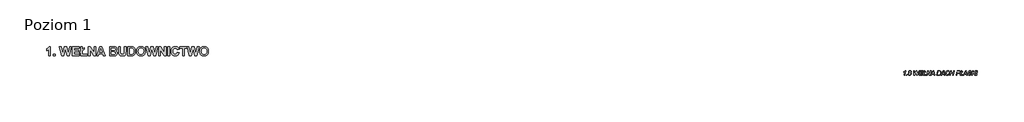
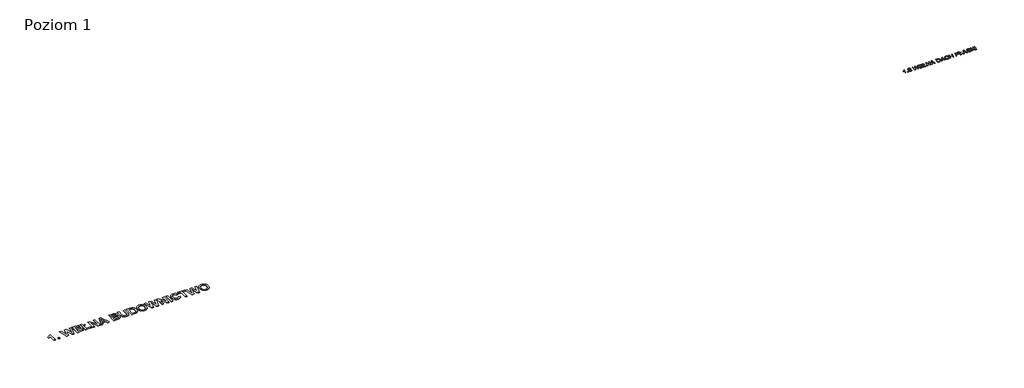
# One storey, incomplete: 2 proxies.
"""IFC4 building model written with IfcOpenShell, lengths in millimetres."""

import ifcopenshell
import ifcopenshell.guid

model = None  # the IFC model being written
_history = None  # IfcOwnerHistory: only IFC2X3 demands one
_inside = {}  # id of a spatial element -> (the spatial element, [elements in it])
_under = {}  # id of a project, library or spatial element -> (it, [spatial elements below it])
_declared = {}  # id of a project -> (the project, [libraries it declares])
_typed = {}  # id of a type object -> (the type object, [elements of that type])
_made_of = {}  # id of a material, layer set ... -> (it, [elements and type objects made of it])


def new_model(schema):
    """Start an empty IFC model of exactly this schema.

    Asked for "IFC4X3", IfcOpenShell would pick the latest addendum, in which some entities
    have other attributes; the version numbers below select the first issue.
    IFC2X3 requires an IfcOwnerHistory on every rooted entity: one is made here for all.
    """
    global model, _history
    if schema == "IFC4X3":
        model = ifcopenshell.file(schema_version=(4, 3, 0, 0))
    else:
        model = ifcopenshell.file(schema=schema)
    _inside.clear()
    _under.clear()
    _declared.clear()
    _typed.clear()
    _made_of.clear()
    _history = None
    if model.schema == "IFC2X3":
        org = make("IfcOrganization", Name="unknown")
        user = make(
            "IfcPersonAndOrganization",
            ThePerson=make("IfcPerson", FamilyName="unknown"),
            TheOrganization=org,
        )
        app = make(
            "IfcApplication",
            ApplicationDeveloper=org,
            Version="unknown",
            ApplicationFullName="unknown",
            ApplicationIdentifier="unknown",
        )
        _history = make(
            "IfcOwnerHistory",
            OwningUser=user,
            OwningApplication=app,
            ChangeAction="ADDED",
            CreationDate=0,
        )
    return model


def make(cls, **values):
    """One entity of the class cls with the attributes given. An attribute that is None is left unset."""
    return model.create_entity(
        cls, **{name: value for name, value in values.items() if value is not None}
    )


def rooted(cls, **values):
    """An entity with a GlobalId (a new one), such as an element, a storey or a relation."""
    return make(cls, GlobalId=ifcopenshell.guid.new(), OwnerHistory=_history, **values)


def si_unit(unit_type, name, prefix=None):
    """IfcSIUnit, for example si_unit("LENGTHUNIT", "METRE", prefix="MILLI")."""
    return make("IfcSIUnit", UnitType=unit_type, Prefix=prefix, Name=name)


def assignment(units):
    """IfcUnitAssignment: the units of a project."""
    return None if units is None else make("IfcUnitAssignment", Units=units)


def point(xyz):
    """IfcCartesianPoint."""
    return None if xyz is None else make("IfcCartesianPoint", Coordinates=xyz)


def direction(xyz):
    """IfcDirection."""
    return None if xyz is None else make("IfcDirection", DirectionRatios=xyz)


def frame(location, z_axis=None, x_axis=None):
    """IfcAxis2Placement3D, a coordinate frame: its origin and axes. An axis left out is left unset."""
    return make(
        "IfcAxis2Placement3D",
        Location=point(location),
        Axis=direction(z_axis),
        RefDirection=direction(x_axis),
    )


def origin():
    """The frame at (0, 0, 0) with its axes left unset."""
    return frame((0.0, 0.0, 0.0))


def origin_with_axes():
    """The frame at (0, 0, 0) with the z axis (0, 0, 1) and the x axis (1, 0, 0) written out."""
    return frame((0.0, 0.0, 0.0), z_axis=(0.0, 0.0, 1.0), x_axis=(1.0, 0.0, 0.0))


def place(relative_to, where):
    """IfcLocalPlacement: puts the frame where relative to a parent placement (None: the world)."""
    return make(
        "IfcLocalPlacement", PlacementRelTo=relative_to, RelativePlacement=where
    )


def context(
    kind, dimensions, precision=None, world=None, true_north=None, identifier=None
):
    """IfcGeometricRepresentationContext, for example the 3D "Model" context."""
    return make(
        "IfcGeometricRepresentationContext",
        ContextIdentifier=identifier,
        ContextType=kind,
        CoordinateSpaceDimension=dimensions,
        Precision=precision,
        WorldCoordinateSystem=world,
        TrueNorth=true_north,
    )


def project(units=None, contexts=None):
    """IfcProject with its units and contexts."""
    return rooted(
        "IfcProject",
        Name="project",
        RepresentationContexts=contexts,
        UnitsInContext=assignment(units),
    )


def spatial(cls, under=None, at=None, **own):
    """A site, building, storey or space (cls), placed at a placement, below another one or the project."""
    s = rooted(cls, ObjectPlacement=at, **own)
    if under is not None:
        _under.setdefault(under.id(), (under, []))[1].append(s)
    return s


def polyline(points):
    """IfcPolyline through the points."""
    return make("IfcPolyline", Points=[point(p) for p in points])


def outline(outer, holes=None, kind="AREA"):
    """IfcArbitraryClosedProfileDef: a profile drawn as a closed curve; with holes, ...WithVoids."""
    if holes is None:
        return make("IfcArbitraryClosedProfileDef", ProfileType=kind, OuterCurve=outer)
    return make(
        "IfcArbitraryProfileDefWithVoids",
        ProfileType=kind,
        OuterCurve=outer,
        InnerCurves=holes,
    )


def extrude(swept, where, along, depth):
    """IfcExtrudedAreaSolid: the profile swept, set in the frame where, extruded along a direction by depth."""
    return make(
        "IfcExtrudedAreaSolid",
        SweptArea=swept,
        Position=where,
        ExtrudedDirection=direction(along),
        Depth=depth,
    )


def shape(context_of_items, identifier, shape_type, items):
    """IfcShapeRepresentation: the items that make up one representation, for example the "Body"."""
    return make(
        "IfcShapeRepresentation",
        ContextOfItems=context_of_items,
        RepresentationIdentifier=identifier,
        RepresentationType=shape_type,
        Items=items,
    )


def made_of(thing, what):
    """Note that an element or type object is made of a material, layer set ...; save() writes the relation."""
    if what is not None:
        _made_of.setdefault(what.id(), (what, []))[1].append(thing)
    return thing


def element(
    cls,
    number,
    at=None,
    inside=None,
    cuts=None,
    type_object=None,
    material=None,
    context=None,
    identifier="Body",
    shape_type=None,
    held_by="IfcProductDefinitionShape",
    body=None,
    shapes=None,
    **own,
):
    """One element of the class cls, such as IfcWall. Its Tag is "e" and its number.

    at: its placement. inside: the storey or other place that contains it. cuts: it is an
    opening in that element (IfcRelVoidsElement). A single representation is given by context,
    identifier, shape_type and body (its items); several are given by shapes. held_by: the class
    of the entity that holds the representations. save() writes the other relations.
    """
    e = rooted(cls, Tag="e%d" % number, ObjectPlacement=at, **own)
    if body is not None:
        shapes = [shape(context, identifier, shape_type, body)]
    if shapes is not None:
        e.Representation = make(held_by, Representations=shapes)
    if inside is not None:
        _inside.setdefault(inside.id(), (inside, []))[1].append(e)
    if cuts is not None:
        rooted(
            "IfcRelVoidsElement", RelatingBuildingElement=cuts, RelatedOpeningElement=e
        )
    if type_object is not None:
        _typed.setdefault(type_object.id(), (type_object, []))[1].append(e)
    return made_of(e, material)


def aggregate(whole, parts):
    """IfcRelAggregates: a whole, such as a stair, and the parts it consists of."""
    return rooted("IfcRelAggregates", RelatingObject=whole, RelatedObjects=parts)


def save(model, path):
    """Write the relations noted so far, then the file.

    IfcRelAggregates (storeys below a building ...), IfcRelContainedInSpatialStructure (elements
    in a storey), IfcRelDefinesByType, IfcRelAssociatesMaterial and IfcRelDeclares: one each for
    every whole, place, type object, material and project.
    """
    for whole, parts in _under.values():
        aggregate(whole, parts)
    for where, things in _inside.values():
        rooted(
            "IfcRelContainedInSpatialStructure",
            RelatedElements=things,
            RelatingStructure=where,
        )
    for kind, things in _typed.values():
        rooted("IfcRelDefinesByType", RelatedObjects=things, RelatingType=kind)
    for what, things in _made_of.values():
        rooted("IfcRelAssociatesMaterial", RelatedObjects=things, RelatingMaterial=what)
    for by, libraries in _declared.values():
        rooted("IfcRelDeclares", RelatingContext=by, RelatedDefinitions=libraries)
    model.write(path)


model = new_model("IFC4")

# Units and contexts
model_context = context("Model", 3, world=origin())
ifc_project = project(units=[si_unit("LENGTHUNIT", "METRE", prefix="MILLI")], contexts=[model_context])

# Site, building, storey
site = spatial("IfcSite", under=ifc_project)
building = spatial("IfcBuilding", under=site)
storey = spatial("IfcBuildingStorey", under=building, Name="Poziom 1", Elevation=0.0)

# Proxies
placement = place(None, origin())
element("IfcBuildingElementProxy", 1, Name="400 mm Arial", ObjectType="400 mm Arial", at=placement, inside=storey, context=model_context, shape_type="SweptSolid", body=[
    extrude(outline(polyline([(59488.1068831, 15251.1796723), (59549.3190043, 15546.3368692), (59527.350787, 15531.4283702), (59501.3296577, 15518.0740851), (59437.1286634, 15496.0281571), (59446.1191937, 15538.8766419), (59481.8302496, 15555.5067319), (59517.0391748, 15576.5125321), (59569.9780952, 15617.0177404), (59590.7328301, 15642.937248), (59619.330368, 15642.937248), (59537.9373755, 15251.1796723), (59488.1068831, 15251.1796723)])), origin_with_axes(), (0.0, 0.0, 1.0), 5.0),
    extrude(outline(polyline([(59684.7508225, 15251.1796723), (59696.2280952, 15300.1493692), (59745.1977922, 15300.1493692), (59734.6769589, 15251.1796723), (59684.7508225, 15251.1796723)])), origin_with_axes(), (0.0, 0.0, 1.0), 5.0),
    extrude(outline(polyline([(59929.5993073, 15471.6389526), (59910.5183414, 15484.8497717), (59896.8890801, 15501.3363957), (59888.7115233, 15520.1423853), (59885.985671, 15540.311301), (59887.611618, 15557.1087679), (59892.4894589, 15573.2606382), (59912.0008225, 15603.6275889), (59930.902456, 15620.8255648), (59952.8886066, 15633.1098332), (59977.9592742, 15640.4803943), (60006.1144589, 15642.937248), (60030.8832503, 15641.2515236), (60052.8723897, 15636.1943503), (60072.0818772, 15627.7657281), (60088.5117127, 15615.9656571), (60101.6717209, 15601.7266656), (60111.0717269, 15585.9812821), (60116.7117304, 15568.7295065), (60118.5917316, 15549.9713389), (60113.964956, 15523.4301457), (60100.0846293, 15499.6626268), (60077.691992, 15479.5534885), (60047.5282846, 15463.9874374), (60067.6374229, 15448.6844071), (60081.0993073, 15432.4249374), (60090.8549892, 15408.7052404), (60094.1068831, 15381.3510738), (60091.8114286, 15355.4883548), (60084.9250649, 15331.0782281), (60073.4477922, 15308.1206938), (60057.3796104, 15286.6157518), (60037.4916487, 15268.4344367), (60014.5550365, 15255.447783), (59988.5697737, 15247.6557909), (59959.5358604, 15245.0584601), (59936.3123163, 15246.9982388), (59915.3244494, 15252.8175747), (59896.5722595, 15262.5164679), (59880.0557467, 15276.0949185), (59866.5819068, 15292.5845314), (59856.9577354, 15311.0169118), (59851.1832325, 15331.3920598), (59849.2583983, 15353.7099753), (59854.5427259, 15394.4901599), (59870.3957089, 15429.0295776), (59882.0224252, 15443.4748013), (59895.7652638, 15455.3914383), (59911.6242245, 15464.7794888), (59929.5993073, 15471.6389526)]), holes=[polyline([(59934.955368, 15536.1029677), (59938.9843689, 15517.3567556), (59951.0713717, 15502.6275889), (59970.2121151, 15493.087106), (59995.4023377, 15489.906945), (60025.3030242, 15494.0794118), (60049.0107657, 15506.5968124), (60064.4692174, 15525.1876031), (60069.6220346, 15547.5802404), (60065.5930337, 15566.2308086), (60053.5060308, 15581.0556192), (60034.3652875, 15590.7395681), (60009.1750649, 15593.967551), (59988.7909503, 15591.9231618), (59970.1045157, 15585.7899942), (59954.5623755, 15576.1538673), (59943.6111445, 15563.6006003), (59937.1193121, 15549.7202736), (59934.955368, 15536.1029677)]), polyline([(59898.2280952, 15352.2753162), (59900.140974, 15337.6776599), (59905.8796104, 15323.7256003), (59915.5157373, 15311.4951315), (59929.1210877, 15302.062248), (59945.8109551, 15296.0366798), (59964.7006331, 15294.0281571), (59982.8729816, 15296.1323238), (59999.2280952, 15302.4448238), (60013.765974, 15312.9656571), (60026.486618, 15327.6948238), (60040.4745441, 15355.0250794), (60045.1371861, 15384.4116798), (60040.8212534, 15407.019516), (60027.8734551, 15425.108176), (60007.9197382, 15436.97998), (59982.5860498, 15440.937248), (59965.6122394, 15439.3979784), (59949.9834219, 15434.7801694), (59935.6995974, 15427.0838212), (59922.7607657, 15416.3089336), (59912.0277224, 15403.0712146), (59904.3612628, 15387.9863721), (59899.7613871, 15371.0544059), (59898.2280952, 15352.2753162)])]), origin_with_axes(), (0.0, 0.0, 1.0), 5.0),
    extrude(outline(polyline([(60345.0765801, 15251.1796723), (60320.5917316, 15642.937248), (60369.5614286, 15642.937248), (60380.7517695, 15447.8236116), (60385.0557467, 15372.9344071), (60386.3947619, 15348.9277783), (60390.985671, 15318.5130056), (60436.4165422, 15418.0783465), (60551.1892695, 15642.937248), (60608.2887013, 15642.937248), (60625.6002543, 15413.2961495), (60635.8341558, 15318.5130056), (60651.328474, 15356.1010738), (60681.9345346, 15417.1219071), (60795.5595346, 15642.937248), (60850.0765801, 15642.937248), (60646.1637013, 15251.1796723), (60589.9250649, 15251.1796723), (60571.3701407, 15487.5158465), (60562.3796104, 15563.3614904), (60536.4601028, 15506.3577026), (60406.0017695, 15251.1796723), (60345.0765801, 15251.1796723)])), origin_with_axes(), (0.0, 0.0, 1.0), 5.0),
    extrude(outline(polyline([(60804.1674892, 15251.1796723), (60883.7432467, 15642.937248), (61159.1977922, 15642.937248), (61152.9809361, 15600.0887632), (60924.7744967, 15600.0887632), (60899.9070725, 15477.6645207), (61122.4705195, 15477.6645207), (61110.2280952, 15434.8160359), (60891.203474, 15434.8160359), (60862.6059361, 15294.0281571), (61108.1239286, 15294.0281571), (61098.9421104, 15251.1796723), (60804.1674892, 15251.1796723)])), origin_with_axes(), (0.0, 0.0, 1.0), 5.0),
    extrude(outline(polyline([(61198.3161634, 15413.7743692), (61146.955368, 15385.8463389), (61159.1977922, 15428.6948238), (61206.6371861, 15454.5186874), (61244.8947619, 15642.937248), (61294.6296104, 15642.937248), (61262.4932467, 15484.7421723), (61373.4402164, 15544.9978541), (61361.1977922, 15502.1493692), (61254.267868, 15444.093498), (61223.7574513, 15294.0281571), (61428.5311255, 15294.0281571), (61416.2887013, 15251.1796723), (61165.3190043, 15251.1796723), (61198.3161634, 15413.7743692)])), origin_with_axes(), (0.0, 0.0, 1.0), 5.0),
    extrude(outline(polyline([(61465.2583983, 15251.1796723), (61544.8341558, 15642.937248), (61612.1674892, 15642.937248), (61671.4667316, 15491.3416041), (61714.5065043, 15374.5603541), (61735.6438149, 15300.1493692), (61757.2593452, 15411.2876268), (61802.3076407, 15642.937248), (61851.9468452, 15642.937248), (61775.8142695, 15251.1796723), (61703.5074513, 15251.1796723), (61622.4970346, 15476.2298616), (61582.9960877, 15585.7421723), (61563.3890801, 15489.0461495), (61514.9932467, 15251.1796723), (61465.2583983, 15251.1796723)])), origin_with_axes(), (0.0, 0.0, 1.0), 5.0),
    extrude(outline(polyline([(61824.2101028, 15251.1796723), (62043.4260119, 15642.937248), (62105.4032846, 15642.937248), (62167.0936255, 15251.1796723), (62117.6457089, 15251.1796723), (62101.9601028, 15361.3614904), (61938.8871861, 15361.3614904), (61879.109724, 15251.1796723), (61824.2101028, 15251.1796723)]), holes=[polyline([(61964.2328301, 15404.2099753), (62095.9345346, 15404.2099753), (62082.1618073, 15502.1493692), (62068.1977922, 15600.0887632), (62025.0623755, 15520.5130056), (61964.2328301, 15404.2099753)])]), origin_with_axes(), (0.0, 0.0, 1.0), 5.0),
    extrude(outline(polyline([(62371.1977922, 15251.1796723), (62450.7735498, 15642.937248), (62568.0330195, 15642.937248), (62605.3102448, 15641.406945), (62632.5926786, 15636.8160359), (62662.1107894, 15625.2670302), (62686.9662581, 15607.2620586), (62706.7167316, 15583.3869402), (62720.9198566, 15554.2274942), (62729.4919447, 15520.4771391), (62732.3493073, 15482.8292935), (62728.8104816, 15437.6733986), (62718.1940043, 15396.701926), (62701.8747572, 15360.1539857), (62681.2276217, 15328.2686874), (62657.878545, 15301.9307376), (62633.453474, 15282.0248427), (62606.1949513, 15267.4989194), (62574.3455195, 15257.3008844), (62545.4610498, 15252.7099753), (62510.6466558, 15251.1796723), (62371.1977922, 15251.1796723)]), holes=[polyline([(62429.6362392, 15294.0281571), (62492.4743073, 15294.0281571), (62532.5969399, 15295.5584601), (62568.0330195, 15300.1493692), (62587.1139854, 15306.1988484), (62603.2299892, 15314.5916041), (62621.5697145, 15328.7469071), (62638.140027, 15346.9192556), (62656.6471293, 15375.385283), (62671.0415422, 15407.6053351), (62680.2950933, 15444.0337205), (62683.3796104, 15485.124748), (62679.1354106, 15527.9134554), (62666.4028111, 15559.4879109), (62647.0946909, 15581.0675747), (62623.1239286, 15593.8719071), (62598.3043263, 15598.5345491), (62562.6769589, 15600.0887632), (62491.8047998, 15600.0887632), (62429.6362392, 15294.0281571)])]), origin_with_axes(), (0.0, 0.0, 1.0), 5.0),
    extrude(outline(polyline([(62730.1494967, 15251.1796723), (62949.3654058, 15642.937248), (63011.3426786, 15642.937248), (63073.0330195, 15251.1796723), (63023.5851028, 15251.1796723), (63007.8994967, 15361.3614904), (62844.8265801, 15361.3614904), (62785.049118, 15251.1796723), (62730.1494967, 15251.1796723)]), holes=[polyline([(62870.172224, 15404.2099753), (63001.8739286, 15404.2099753), (62988.1012013, 15502.1493692), (62974.1371861, 15600.0887632), (62931.0017695, 15520.5130056), (62870.172224, 15404.2099753)])]), origin_with_axes(), (0.0, 0.0, 1.0), 5.0),
    extrude(outline(polyline([(63430.1674892, 15391.967551), (63479.1371861, 15385.8463389), (63465.501947, 15353.198878), (63449.0810782, 15324.7896391), (63429.8745796, 15300.6186223), (63407.8824513, 15280.6858276), (63383.7801786, 15265.0988543), (63358.2432467, 15253.965302), (63331.2716558, 15247.2851706), (63302.8654058, 15245.0584601), (63269.1748282, 15247.7723569), (63239.1665422, 15255.9140473), (63212.8405479, 15269.4835312), (63190.1968452, 15288.4808086), (63171.994608, 15312.5412371), (63158.99301, 15341.3001741), (63151.1920512, 15374.7576197), (63148.5917316, 15412.9135738), (63152.5549773, 15463.4195515), (63164.4447145, 15509.3465757), (63184.2609432, 15550.6946462), (63212.0036634, 15587.4637632), (63241.9342387, 15614.4114431), (63275.2960403, 15633.6597859), (63312.0890682, 15645.2087916), (63352.3133225, 15649.0584601), (63381.8762664, 15646.9841822), (63408.4921814, 15640.7613484), (63432.1610675, 15630.3899587), (63452.8829248, 15615.8700132), (63470.1078005, 15597.8471083), (63483.285742, 15576.9668408), (63492.4167493, 15553.2292106), (63497.5008225, 15526.6342177), (63448.5311255, 15520.5130056), (63436.9103869, 15558.1847622), (63427.9079011, 15572.9228955), (63416.7773377, 15584.9291988), (63403.6980289, 15594.2395385), (63388.8493073, 15600.8897812), (63353.8436255, 15606.2099753), (63319.3699631, 15602.2228186), (63288.351438, 15590.2613484), (63260.7880502, 15570.3255648), (63236.6797998, 15542.4154677), (63219.5655124, 15513.6326197), (63207.3410214, 15482.2793408), (63200.0063268, 15448.3556311), (63197.5614286, 15411.8614904), (63199.4503964, 15383.4701848), (63205.1172998, 15358.6475937), (63214.5621388, 15337.393717), (63227.7849134, 15319.7085548), (63244.0384054, 15305.7953505), (63262.5753964, 15295.8573474), (63283.3958864, 15289.8945456), (63306.4998755, 15287.906945), (63326.7136243, 15289.6046249), (63345.941045, 15294.6976647), (63364.1821376, 15303.1860643), (63381.436902, 15315.0698238), (63397.053764, 15330.0620113), (63410.3811492, 15347.875695), (63421.4190576, 15368.5108749), (63430.1674892, 15391.967551)])), origin_with_axes(), (0.0, 0.0, 1.0), 5.0),
    extrude(outline(polyline([(63515.8644589, 15251.1796723), (63595.4402164, 15642.937248), (63645.1750649, 15642.937248), (63611.6040422, 15477.6645207), (63813.0301786, 15477.6645207), (63846.7924892, 15642.937248), (63896.5273377, 15642.937248), (63816.5690043, 15251.1796723), (63766.8341558, 15251.1796723), (63804.3265801, 15434.8160359), (63602.9004437, 15434.8160359), (63565.5993073, 15251.1796723), (63515.8644589, 15251.1796723)])), origin_with_axes(), (0.0, 0.0, 1.0), 5.0),
    extrude(outline(polyline([(64060.6523377, 15251.1796723), (64139.8455195, 15642.937248), (64303.109724, 15642.937248), (64340.1956615, 15640.4983276), (64366.7129437, 15633.1815662), (64386.1047524, 15619.9587916), (64401.8142695, 15599.8018313), (64412.2155479, 15574.7431192), (64415.6826407, 15546.8150889), (64413.2078538, 15522.3182849), (64405.783493, 15497.4149942), (64394.5811966, 15474.5082707), (64380.7726028, 15456.0011685), (64365.5652164, 15441.7023995), (64350.1665422, 15431.420676), (64316.9780952, 15419.1304298), (64279.0791842, 15412.530998), (64240.7498755, 15410.3311874), (64142.6191937, 15410.3311874), (64110.4828301, 15251.1796723), (64060.6523377, 15251.1796723)]), holes=[polyline([(64151.3227922, 15453.1796723), (64239.3152164, 15453.1796723), (64283.6820488, 15455.9055245), (64314.4435308, 15464.0830813), (64335.9514617, 15477.8438531), (64352.5576407, 15497.3193503), (64363.174118, 15520.3336732), (64366.7129437, 15544.7109223), (64364.8000649, 15562.2615851), (64359.0614286, 15576.2734223), (64349.8317884, 15586.901855), (64337.4458983, 15594.3023048), (64317.0737392, 15598.6421486), (64283.8852922, 15600.0887632), (64181.0680573, 15600.0887632), (64151.3227922, 15453.1796723)])]), origin_with_axes(), (0.0, 0.0, 1.0), 5.0),
    extrude(outline(polyline([(64454.8010119, 15413.7743692), (64403.4402164, 15385.8463389), (64415.6826407, 15428.6948238), (64463.1220346, 15454.5186874), (64501.3796104, 15642.937248), (64551.1144589, 15642.937248), (64518.9780952, 15484.7421723), (64629.9250649, 15544.9978541), (64617.6826407, 15502.1493692), (64510.7527164, 15444.093498), (64480.2422998, 15294.0281571), (64685.015974, 15294.0281571), (64672.7735498, 15251.1796723), (64421.8038528, 15251.1796723), (64454.8010119, 15413.7743692)])), origin_with_axes(), (0.0, 0.0, 1.0), 5.0),
    extrude(outline(polyline([(64688.9373755, 15251.1796723), (64908.1532846, 15642.937248), (64970.1305573, 15642.937248), (65031.8208983, 15251.1796723), (64982.3729816, 15251.1796723), (64966.6873755, 15361.3614904), (64803.6144589, 15361.3614904), (64743.8369967, 15251.1796723), (64688.9373755, 15251.1796723)]), holes=[polyline([(64828.9601028, 15404.2099753), (64960.6618073, 15404.2099753), (64946.8890801, 15502.1493692), (64932.9250649, 15600.0887632), (64889.7896483, 15520.5130056), (64828.9601028, 15404.2099753)])]), origin_with_axes(), (0.0, 0.0, 1.0), 5.0),
    extrude(outline(polyline([(65101.2583983, 15379.7251268), (65150.2280952, 15385.8463389), (65149.6542316, 15371.6910359), (65152.236618, 15349.2386211), (65159.983777, 15328.7469071), (65173.6847714, 15311.4473096), (65194.1286634, 15298.5712442), (65220.1677259, 15290.5730198), (65250.6542316, 15287.906945), (65291.6974371, 15293.0717177), (65308.0674951, 15299.5276836), (65321.6698566, 15308.5660359), (65339.9976265, 15330.6836969), (65346.1068831, 15355.718498), (65342.9028111, 15373.3887158), (65333.2905952, 15389.4808086), (65308.9970346, 15407.0792935), (65262.1315043, 15430.0338389), (65200.5368073, 15460.6398995), (65178.1083036, 15478.7166041), (65162.4705195, 15498.3236116), (65153.2887013, 15520.1543408), (65150.2280952, 15544.9022101), (65154.2092742, 15573.499748), (65166.1528111, 15599.2279677), (65185.7598187, 15620.6402546), (65212.7314096, 15636.2899942), (65245.3579484, 15645.8663437), (65281.9297998, 15649.0584601), (65324.3239759, 15644.9577262), (65359.4970346, 15632.6555245), (65386.7316464, 15613.5147812), (65405.3104816, 15588.8984223), (65415.9986918, 15562.1659412), (65419.5614286, 15536.6768313), (65419.5614286, 15528.4514526), (65370.5917316, 15524.3387632), (65367.8180573, 15551.405998), (65361.254492, 15567.1752925), (65351.8933414, 15580.2426457), (65339.1248755, 15590.811301), (65322.3393642, 15599.0845018), (65302.4334693, 15604.4286069), (65280.3038528, 15606.2099753), (65243.9113339, 15601.3799563), (65229.1223897, 15595.3424327), (65216.6049892, 15586.8898995), (65203.5495914, 15569.7457234), (65199.1977922, 15547.7715283), (65201.0030716, 15534.094445), (65206.4189096, 15521.9476647), (65216.5452117, 15510.6616798), (65232.4818831, 15499.5669829), (65296.0851028, 15468.8652783), (65352.3237392, 15439.5982329), (65370.5199986, 15423.9604488), (65383.9818831, 15405.3577026), (65392.3029058, 15383.8856382), (65395.0765801, 15359.6398995), (65390.3661161, 15329.1892603), (65376.234724, 15301.1536306), (65353.7942647, 15277.3741562), (65324.156599, 15259.6919829), (65288.5172761, 15248.7168408), (65248.0718452, 15245.0584601), (65217.1878194, 15246.8876505), (65189.286689, 15252.3752215), (65164.3684539, 15261.5211732), (65142.4331142, 15274.3255056), (65124.5267754, 15291.888124), (65111.6955431, 15315.3089336), (65103.9394174, 15344.5879346), (65101.2583983, 15379.7251268)])), origin_with_axes(), (0.0, 0.0, 1.0), 5.0),
    extrude(outline(polyline([(65444.046277, 15251.1796723), (65523.2394589, 15642.937248), (65572.9743073, 15642.937248), (65534.5254437, 15452.5101647), (65751.6371861, 15642.937248), (65823.5614286, 15642.937248), (65640.6902164, 15481.0120586), (65770.2877543, 15251.1796723), (65714.9099134, 15251.1796723), (65603.1021483, 15449.6408465), (65519.0311255, 15375.8993692), (65493.8767695, 15251.1796723), (65444.046277, 15251.1796723)])), origin_with_axes(), (0.0, 0.0, 1.0), 5.0),
    extrude(outline(polyline([(65811.3190043, 15251.1796723), (65890.8947619, 15642.937248), (65940.6296104, 15642.937248), (65861.0538528, 15251.1796723), (65811.3190043, 15251.1796723)])), origin_with_axes(), (0.0, 0.0, 1.0), 5.0),
])
element("IfcBuildingElementProxy", 2, Name="800", ObjectType="800", at=placement, inside=storey, context=model_context, shape_type="SweptSolid", body=[
    extrude(outline(polyline([(-15688.5553841, 16963.7896585), (-15841.5553841, 16963.7896585), (-15841.5553841, 17537.938096), (-15883.9142708, 17497.5215921), (-15929.9088997, 17462.7330179), (-15979.5392708, 17433.5723734), (-16032.8053841, 17410.0396585), (-16032.8053841, 17563.0396585), (-16002.7856087, 17575.1235208), (-15971.4958138, 17591.6524515), (-15905.1061654, 17638.0455179), (-15873.3432259, 17666.8388529), (-15846.984095, 17697.9356546), (-15826.0287728, 17731.3359232), (-15810.4772591, 17767.0396585), (-15688.5553841, 17767.0396585), (-15688.5553841, 16963.7896585)])), origin_with_axes(), (0.0, 0.0, 1.0), 5.0),
    extrude(outline(polyline([(-15433.5553841, 16963.7896585), (-15433.5553841, 17116.7896585), (-15280.5553841, 17116.7896585), (-15280.5553841, 16963.7896585), (-15433.5553841, 16963.7896585)])), origin_with_axes(), (0.0, 0.0, 1.0), 5.0),
    extrude(outline(polyline([(-14695.8483529, 16963.7896585), (-14898.0553841, 17767.0396585), (-14741.0710091, 17767.0396585), (-14611.1803841, 17215.203721), (-14471.5280404, 17767.0396585), (-14265.7350716, 17767.0396585), (-14126.6803841, 17206.0396585), (-13996.7897591, 17767.0396585), (-13839.8053841, 17767.0396585), (-14039.0241341, 16963.7896585), (-14220.1139779, 16963.7896585), (-14368.9303841, 17564.234971), (-14520.7350716, 16963.7896585), (-14695.8483529, 16963.7896585)])), origin_with_axes(), (0.0, 0.0, 1.0), 5.0),
    extrude(outline(polyline([(-13763.3053841, 16963.7896585), (-13763.3053841, 17767.0396585), (-13164.0553841, 17767.0396585), (-13164.0553841, 17626.7896585), (-13610.3053841, 17626.7896585), (-13610.3053841, 17448.2896585), (-13189.5553841, 17448.2896585), (-13189.5553841, 17308.0396585), (-13610.3053841, 17308.0396585), (-13610.3053841, 17104.0396585), (-13151.3053841, 17104.0396585), (-13151.3053841, 16963.7896585), (-13763.3053841, 16963.7896585)])), origin_with_axes(), (0.0, 0.0, 1.0), 5.0),
    extrude(outline(polyline([(-13023.8053841, 17367.406846), (-13023.8053841, 17767.0396585), (-12870.8053841, 17767.0396585), (-12870.8053841, 17501.8795023), (-12692.3053841, 17658.6646585), (-12692.3053841, 17561.047471), (-12870.8053841, 17404.2623148), (-12870.8053841, 17104.0396585), (-12462.8053841, 17104.0396585), (-12462.8053841, 16963.7896585), (-13023.8053841, 16963.7896585), (-13023.8053841, 17269.7896585), (-13113.0553841, 17191.297471), (-13113.0553841, 17288.9146585), (-13023.8053841, 17367.406846)])), origin_with_axes(), (0.0, 0.0, 1.0), 5.0),
    extrude(outline(polyline([(-12348.0553841, 16963.7896585), (-12348.0553841, 17767.0396585), (-12187.6842904, 17767.0396585), (-11850.8053841, 17226.359971), (-11850.8053841, 17767.0396585), (-11697.8053841, 17767.0396585), (-11697.8053841, 16963.7896585), (-11863.1569466, 16963.7896585), (-12195.0553841, 17496.500596), (-12195.0553841, 16963.7896585), (-12348.0553841, 16963.7896585)])), origin_with_axes(), (0.0, 0.0, 1.0), 5.0),
    extrude(outline(polyline([(-10869.0553841, 16963.7896585), (-11029.8249154, 16963.7896585), (-11092.7780404, 17142.2896585), (-11396.1881966, 17142.2896585), (-11458.3444466, 16963.7896585), (-11621.3053841, 16963.7896585), (-11328.0553841, 17767.0396585), (-11165.0944466, 17767.0396585), (-10869.0553841, 16963.7896585)]), holes=[polyline([(-11141.7858529, 17282.5396585), (-11245.1803841, 17575.7896585), (-11347.1803841, 17282.5396585), (-11141.7858529, 17282.5396585)])]), origin_with_axes(), (0.0, 0.0, 1.0), 5.0),
    extrude(outline(polyline([(-10486.5553841, 17767.0396585), (-10156.8483529, 17767.0396585), (-10071.4582161, 17765.047471), (-10010.9206185, 17759.0709085), (-9965.3493294, 17746.7442484), (-9924.8581185, 17725.7017679), (-9890.0695443, 17696.1177835), (-9861.6061654, 17658.1666117), (-9850.5370736, 17636.4579935), (-9842.6305794, 17613.4669046), (-9837.8866829, 17589.1933451), (-9836.3053841, 17563.6373148), (-9838.1917366, 17535.9210062), (-9843.8507943, 17509.3502054), (-9853.282557, 17483.9249124), (-9866.4870247, 17459.6451273), (-9882.9287972, 17437.4197855), (-9902.072474, 17418.1578226), (-9923.918055, 17401.8592386), (-9948.4655404, 17388.5240335), (-9917.213099, 17375.9981546), (-9889.7956185, 17359.7369242), (-9866.213099, 17339.7403421), (-9846.4655404, 17316.0084085), (-9830.864222, 17289.2757425), (-9819.7204232, 17260.2769632), (-9813.0341439, 17229.0120707), (-9810.8053841, 17195.4810648), (-9812.4053597, 17168.3810892), (-9817.2052865, 17141.6670999), (-9836.4049935, 17089.3970804), (-9850.3752083, 17064.9429789), (-9866.6862435, 17043.078721), (-9885.338099, 17023.804307), (-9906.3307747, 17007.1197367), (-9929.782557, 16993.2055521), (-9955.8117318, 16982.2422953), (-9984.4182991, 16974.2299662), (-10015.6022591, 16969.1685648), (-10085.0299935, 16965.632432), (-10212.0319466, 16963.7896585), (-10486.5553841, 16963.7896585), (-10486.5553841, 17767.0396585)]), holes=[polyline([(-10333.5553841, 17626.7896585), (-10333.5553841, 17448.2896585), (-10216.8131966, 17448.2896585), (-10087.3210091, 17450.8795023), (-10046.5558724, 17460.1929789), (-10029.8152718, 17468.2488871), (-10015.5026497, 17478.5709085), (-10004.041346, 17490.9349222), (-9995.8547005, 17505.116807), (-9990.9427132, 17521.1165628), (-9989.3053841, 17538.9341898), (-9994.9582161, 17571.2823343), (-10002.0242562, 17584.9723978), (-10011.9167122, 17597.0064554), (-10024.5857796, 17607.1105814), (-10039.9816536, 17615.0108499), (-10078.9538216, 17624.1998148), (-10231.1569466, 17626.7896585), (-10333.5553841, 17626.7896585)]), polyline([(-10333.5553841, 17308.0396585), (-10333.5553841, 17104.0396585), (-10171.7897591, 17104.0396585), (-10094.4928841, 17105.234971), (-10051.8600716, 17108.8209085), (-10016.4489388, 17119.504014), (-9988.3092904, 17139.2017679), (-9977.5888314, 17152.3315287), (-9969.9313607, 17167.5157328), (-9965.3368782, 17184.7543802), (-9963.8053841, 17204.047471), (-9968.5368294, 17235.7232523), (-9982.7311654, 17262.219346), (-10005.8405404, 17282.8882914), (-10037.3171029, 17297.0826273), (-10093.8952279, 17305.3004007), (-10192.3092904, 17308.0396585), (-10333.5553841, 17308.0396585)])]), origin_with_axes(), (0.0, 0.0, 1.0), 5.0),
    extrude(outline(polyline([(-9683.3053841, 17767.0396585), (-9530.3053841, 17767.0396585), (-9530.3053841, 17333.7388773), (-9528.6618294, 17248.672471), (-9523.7311654, 17199.8638773), (-9516.098597, 17176.5615091), (-9504.5563607, 17155.6622171), (-9489.1044564, 17137.1660013), (-9469.7428841, 17121.0728617), (-9446.4716439, 17108.0427103), (-9419.2907357, 17098.7354593), (-9388.2001595, 17093.1511087), (-9353.1999154, 17091.2896585), (-9317.8697152, 17093.0452738), (-9287.1838021, 17098.3121195), (-9261.1421761, 17107.0901957), (-9239.7448372, 17119.3795023), (-9222.5684456, 17134.2275248), (-9209.1896615, 17150.6817484), (-9199.6084847, 17168.7421732), (-9193.8249154, 17188.4087992), (-9187.9977669, 17242.8702249), (-9186.0553841, 17324.375596), (-9186.0553841, 17767.0396585), (-9033.0553841, 17767.0396585), (-9033.0553841, 17345.6920023), (-9036.3922982, 17222.3257914), (-9046.4030404, 17141.4927835), (-9054.4838509, 17112.8613138), (-9065.3786263, 17086.5333109), (-9079.0873665, 17062.5087748), (-9095.6100716, 17040.7877054), (-9115.0525765, 17021.2704935), (-9137.5207161, 17003.8575296), (-9163.0144906, 16988.5488138), (-9191.5338997, 16975.344346), (-9223.8633675, 16964.7110453), (-9260.7873177, 16957.1158304), (-9302.3057503, 16952.5587015), (-9348.4186654, 16951.0396585), (-9403.2660775, 16952.6956644), (-9451.0661263, 16957.663682), (-9491.8188118, 16965.9437113), (-9525.5241341, 16977.5357523), (-9554.1244759, 16991.7798929), (-9579.56222, 17008.016221), (-9601.8373665, 17026.2447367), (-9620.9499154, 17046.4654398), (-9650.0358529, 17089.944932), (-9667.1686654, 17135.516221), (-9679.2712044, 17220.8814554), (-9683.3053841, 17339.1177835), (-9683.3053841, 17767.0396585)])), origin_with_axes(), (0.0, 0.0, 1.0), 5.0),
    extrude(outline(polyline([(-8880.0553841, 17767.0396585), (-8582.6217904, 17767.0396585), (-8493.9694466, 17763.2046976), (-8429.2233529, 17751.6998148), (-8395.0324349, 17739.2299662), (-8363.381556, 17722.738389), (-8334.2707161, 17702.2250833), (-8307.6999154, 17677.6900492), (-8283.9119515, 17649.6500101), (-8263.1496224, 17618.6216898), (-8245.4129281, 17584.6050882), (-8230.7018685, 17547.6002054), (-8219.1534066, 17506.8537455), (-8210.9045052, 17461.6124124), (-8205.9551644, 17411.8762064), (-8204.3053841, 17357.6451273), (-8205.8493294, 17309.8326273), (-8210.4811654, 17265.406846), (-8218.2008919, 17224.3677835), (-8229.0085091, 17186.7154398), (-8245.7677865, 17144.9791117), (-8265.7643685, 17107.4263773), (-8288.9982552, 17074.0572367), (-8315.4694466, 17044.8716898), (-8338.4543099, 17025.472764), (-8365.1745247, 17008.3150492), (-8395.6300911, 16993.3985453), (-8429.8210091, 16980.7232523), (-8492.7243294, 16968.023057), (-8573.8561654, 16963.7896585), (-8880.0553841, 16963.7896585), (-8880.0553841, 17767.0396585)]), holes=[polyline([(-8727.0553841, 17626.7896585), (-8727.0553841, 17104.0396585), (-8596.7663216, 17104.0396585), (-8533.8131966, 17105.9322367), (-8491.1803841, 17111.609971), (-8452.3576302, 17124.5840921), (-8420.756556, 17144.3814554), (-8407.4026741, 17157.8473978), (-8395.331263, 17175.0362406), (-8375.0358529, 17220.5826273), (-8361.7380013, 17283.2369242), (-8357.3053841, 17365.2154398), (-8361.7380013, 17446.0484476), (-8367.2787728, 17478.5086527), (-8375.0358529, 17505.6646585), (-8396.2775521, 17549.2935648), (-8424.5417122, 17582.1646585), (-8460.6252083, 17605.1744242), (-8505.3249154, 17619.219346), (-8559.4626107, 17624.8970804), (-8648.5631966, 17626.7896585), (-8727.0553841, 17626.7896585)])]), origin_with_axes(), (0.0, 0.0, 1.0), 5.0),
    extrude(outline(polyline([(-8102.3053841, 17360.4341898), (-8100.051722, 17419.2286234), (-8093.2907357, 17473.0923929), (-8082.0224251, 17522.0254984), (-8066.2467904, 17566.0279398), (-8034.4464974, 17624.0753031), (-7992.834681, 17675.8970804), (-7944.1007943, 17718.3057718), (-7918.0716195, 17734.7848978), (-7890.9342904, 17748.1138773), (-7852.659388, 17761.9720316), (-7811.5456185, 17771.8707132), (-7767.5929818, 17777.8099222), (-7720.8014779, 17779.7896585), (-7678.3118538, 17778.0729532), (-7638.0011849, 17772.9228373), (-7599.869471, 17764.3393106), (-7563.9167122, 17752.3223734), (-7530.1429085, 17736.8720255), (-7498.5480599, 17717.9882669), (-7469.1321663, 17695.6710978), (-7441.8952279, 17669.9205179), (-7417.3819832, 17641.1131754), (-7396.1371712, 17609.6257181), (-7378.1607918, 17575.4581461), (-7363.452845, 17538.6104593), (-7352.0133309, 17499.0826578), (-7343.8422493, 17456.8747416), (-7338.9396004, 17411.9867105), (-7337.3053841, 17364.4185648), (-7338.9271492, 17317.1819315), (-7343.7924447, 17272.5911722), (-7351.9012703, 17230.646287), (-7363.2536263, 17191.3472757), (-7377.8495125, 17154.6941385), (-7395.688929, 17120.6868753), (-7416.7718758, 17089.3254862), (-7441.0983529, 17060.609971), (-7468.1422982, 17034.9294291), (-7497.3776497, 17012.6729593), (-7528.8044075, 16993.8405619), (-7562.4225716, 16978.4322367), (-7598.2321419, 16966.4479837), (-7636.2331185, 16957.8878031), (-7676.4255013, 16952.7516947), (-7718.8092904, 16951.0396585), (-7761.6599984, 16952.7439127), (-7802.2570443, 16957.8566751), (-7840.6004281, 16966.3779459), (-7876.6901497, 16978.3077249), (-7910.5262093, 16993.6460123), (-7942.1086068, 17012.392808), (-7971.4373421, 17034.5481119), (-7998.5124154, 17060.1119242), (-8022.8388924, 17088.6640177), (-8043.9218392, 17119.7841654), (-8061.7612557, 17153.4723673), (-8076.3571419, 17189.7286234), (-8087.7094979, 17228.5529337), (-8095.8183236, 17269.9452982), (-8100.683619, 17313.9057169), (-8102.3053841, 17360.4341898)]), holes=[polyline([(-7949.3053841, 17366.0123148), (-7945.2400765, 17302.4739847), (-7933.0441536, 17247.1285257), (-7912.7176156, 17199.9759378), (-7884.2604622, 17161.016221), (-7849.5403695, 17130.5108499), (-7810.425013, 17108.7212992), (-7766.9143929, 17095.6475687), (-7719.0085091, 17091.2896585), (-7671.15243, 17095.6164408), (-7627.791224, 17108.5967874), (-7588.9248909, 17130.2306986), (-7554.553431, 17160.5181742), (-7526.4449105, 17199.4592142), (-7506.3673958, 17247.0538187), (-7494.320887, 17303.3019876), (-7490.3053841, 17368.203721), (-7494.2150521, 17432.2027445), (-7505.944056, 17487.5357523), (-7525.4923958, 17534.2027445), (-7552.8600716, 17572.203721), (-7586.7023568, 17601.6631937), (-7625.6745247, 17622.7056742), (-7669.7765755, 17635.3311624), (-7719.0085091, 17639.5396585), (-7768.2902474, 17635.2813578), (-7812.5417122, 17622.5064554), (-7851.7629036, 17601.2149515), (-7885.9538216, 17571.406846), (-7913.6701302, 17533.0198832), (-7933.4674935, 17485.991807), (-7945.3459115, 17430.3226175), (-7949.3053841, 17366.0123148)])]), origin_with_axes(), (0.0, 0.0, 1.0), 5.0),
    extrude(outline(polyline([(-7084.0983529, 16963.7896585), (-7286.3053841, 17767.0396585), (-7129.3210091, 17767.0396585), (-6999.4303841, 17215.203721), (-6859.7780404, 17767.0396585), (-6653.9850716, 17767.0396585), (-6514.9303841, 17206.0396585), (-6385.0397591, 17767.0396585), (-6228.0553841, 17767.0396585), (-6427.2741341, 16963.7896585), (-6608.3639779, 16963.7896585), (-6757.1803841, 17564.234971), (-6908.9850716, 16963.7896585), (-7084.0983529, 16963.7896585)])), origin_with_axes(), (0.0, 0.0, 1.0), 5.0),
    extrude(outline(polyline([(-6151.5553841, 16963.7896585), (-6151.5553841, 17767.0396585), (-5991.1842904, 17767.0396585), (-5654.3053841, 17226.359971), (-5654.3053841, 17767.0396585), (-5501.3053841, 17767.0396585), (-5501.3053841, 16963.7896585), (-5666.6569466, 16963.7896585), (-5998.5553841, 17496.500596), (-5998.5553841, 16963.7896585), (-6151.5553841, 16963.7896585)])), origin_with_axes(), (0.0, 0.0, 1.0), 5.0),
    extrude(outline(polyline([(-5348.3053841, 16963.7896585), (-5348.3053841, 17767.0396585), (-5195.3053841, 17767.0396585), (-5195.3053841, 16963.7896585), (-5348.3053841, 16963.7896585)])), origin_with_axes(), (0.0, 0.0, 1.0), 5.0),
    extrude(outline(polyline([(-4519.5553841, 17269.7896585), (-4366.5553841, 17218.7896585), (-4387.6850228, 17158.29564), (-4414.8161263, 17106.1065531), (-4447.9486947, 17062.2223978), (-4487.0827279, 17026.6431742), (-4532.0563607, 16999.1447611), (-4582.7077279, 16979.5030374), (-4639.0368294, 16967.7180033), (-4701.0436654, 16963.7896585), (-4740.2430672, 16965.467454), (-4777.6557259, 16970.5008402), (-4813.2816414, 16978.8898172), (-4847.1208138, 16990.6343851), (-4879.173243, 17005.7345438), (-4909.438929, 17024.1902933), (-4937.9178719, 17046.0016336), (-4964.6100716, 17071.1685648), (-4988.796473, 17099.2459574), (-5009.7580208, 17129.788682), (-5027.4947152, 17162.7967386), (-5042.006556, 17198.2701273), (-5053.2935433, 17236.208848), (-5061.3556771, 17276.6129007), (-5066.1929574, 17319.4822855), (-5067.8053841, 17364.8170023), (-5066.1789498, 17412.6979837), (-5061.2996468, 17457.8272562), (-5053.1674752, 17500.2048197), (-5041.7824349, 17539.8306742), (-5027.144526, 17576.7048197), (-5009.2537484, 17610.8272562), (-4988.1101021, 17642.1979837), (-4963.7135872, 17670.8170023), (-4936.6649727, 17696.3574686), (-4907.5650277, 17718.4925394), (-4876.413752, 17737.2222147), (-4843.2111458, 17752.5464945), (-4807.9572091, 17764.4653788), (-4770.6519417, 17772.9788675), (-4731.2953438, 17778.0869608), (-4689.8874154, 17779.7896585), (-4619.2643685, 17774.17418), (-4555.6139779, 17757.3277445), (-4526.4035286, 17744.6929178), (-4498.9362435, 17729.2503519), (-4473.2121224, 17711.0000467), (-4449.2311654, 17689.9420023), (-4423.3700814, 17660.5447855), (-4400.9704232, 17625.3453226), (-4382.0321907, 17584.3436136), (-4366.5553841, 17537.5396585), (-4519.5553841, 17512.0396585), (-4529.1988167, 17540.0610208), (-4542.9884896, 17564.957139), (-4560.9244027, 17586.728013), (-4583.006556, 17605.3736429), (-4608.4629769, 17620.3212748), (-4636.5216927, 17630.9981546), (-4667.1827034, 17637.4042826), (-4700.4460091, 17639.5396585), (-4745.9114632, 17635.6611185), (-4786.8820443, 17624.0254984), (-4823.3577523, 17604.6327982), (-4855.3385872, 17577.4830179), (-4881.3553109, 17541.6547708), (-4899.9386849, 17496.2266703), (-4911.0887093, 17441.1987162), (-4914.8053841, 17376.5709085), (-4911.2007699, 17308.1641703), (-4900.3869271, 17250.3658304), (-4882.3638558, 17203.175889), (-4857.131556, 17166.594346), (-4826.1219124, 17139.2266703), (-4790.7668099, 17119.6783304), (-4751.0662484, 17107.9493265), (-4707.0202279, 17104.0396585), (-4674.2300667, 17106.5361185), (-4643.7931771, 17114.0254984), (-4615.7095589, 17126.5077982), (-4589.9792122, 17143.9830179), (-4567.1624398, 17166.8246927), (-4547.8195443, 17195.4063578), (-4531.9505257, 17229.728013), (-4519.5553841, 17269.7896585)])), origin_with_axes(), (0.0, 0.0, 1.0), 5.0),
    extrude(outline(polyline([(-4060.5553841, 16963.7896585), (-4060.5553841, 17626.7896585), (-4290.0553841, 17626.7896585), (-4290.0553841, 17767.0396585), (-3678.0553841, 17767.0396585), (-3678.0553841, 17626.7896585), (-3907.5553841, 17626.7896585), (-3907.5553841, 16963.7896585), (-4060.5553841, 16963.7896585)])), origin_with_axes(), (0.0, 0.0, 1.0), 5.0),
    extrude(outline(polyline([(-3450.3483529, 16963.7896585), (-3652.5553841, 17767.0396585), (-3495.5710091, 17767.0396585), (-3365.6803841, 17215.203721), (-3226.0280404, 17767.0396585), (-3020.2350716, 17767.0396585), (-2881.1803841, 17206.0396585), (-2751.2897591, 17767.0396585), (-2594.3053841, 17767.0396585), (-2793.5241341, 16963.7896585), (-2974.6139779, 16963.7896585), (-3123.4303841, 17564.234971), (-3275.2350716, 16963.7896585), (-3450.3483529, 16963.7896585)])), origin_with_axes(), (0.0, 0.0, 1.0), 5.0),
    extrude(outline(polyline([(-2543.3053841, 17360.4341898), (-2541.051722, 17419.2286234), (-2534.2907357, 17473.0923929), (-2523.0224251, 17522.0254984), (-2507.2467904, 17566.0279398), (-2475.4464974, 17624.0753031), (-2433.834681, 17675.8970804), (-2385.1007943, 17718.3057718), (-2359.0716195, 17734.7848978), (-2331.9342904, 17748.1138773), (-2293.659388, 17761.9720316), (-2252.5456185, 17771.8707132), (-2208.5929818, 17777.8099222), (-2161.8014779, 17779.7896585), (-2119.3118538, 17778.0729532), (-2079.0011849, 17772.9228373), (-2040.869471, 17764.3393106), (-2004.9167122, 17752.3223734), (-1971.1429085, 17736.8720255), (-1939.5480599, 17717.9882669), (-1910.1321663, 17695.6710978), (-1882.8952279, 17669.9205179), (-1858.3819832, 17641.1131754), (-1837.1371712, 17609.6257181), (-1819.1607918, 17575.4581461), (-1804.452845, 17538.6104593), (-1793.0133309, 17499.0826578), (-1784.8422493, 17456.8747416), (-1779.9396004, 17411.9867105), (-1778.3053841, 17364.4185648), (-1779.9271492, 17317.1819315), (-1784.7924447, 17272.5911722), (-1792.9012703, 17230.646287), (-1804.2536263, 17191.3472757), (-1818.8495125, 17154.6941385), (-1836.688929, 17120.6868753), (-1857.7718758, 17089.3254862), (-1882.0983529, 17060.609971), (-1909.1422982, 17034.9294291), (-1938.3776497, 17012.6729593), (-1969.8044075, 16993.8405619), (-2003.4225716, 16978.4322367), (-2039.2321419, 16966.4479837), (-2077.2331185, 16957.8878031), (-2117.4255013, 16952.7516947), (-2159.8092904, 16951.0396585), (-2202.6599984, 16952.7439127), (-2243.2570443, 16957.8566751), (-2281.6004281, 16966.3779459), (-2317.6901497, 16978.3077249), (-2351.5262093, 16993.6460123), (-2383.1086068, 17012.392808), (-2412.4373421, 17034.5481119), (-2439.5124154, 17060.1119242), (-2463.8388924, 17088.6640177), (-2484.9218392, 17119.7841654), (-2502.7612557, 17153.4723673), (-2517.3571419, 17189.7286234), (-2528.7094979, 17228.5529337), (-2536.8183236, 17269.9452982), (-2541.683619, 17313.9057169), (-2543.3053841, 17360.4341898)]), holes=[polyline([(-2390.3053841, 17366.0123148), (-2386.2400765, 17302.4739847), (-2374.0441536, 17247.1285257), (-2353.7176156, 17199.9759378), (-2325.2604622, 17161.016221), (-2290.5403695, 17130.5108499), (-2251.425013, 17108.7212992), (-2207.9143929, 17095.6475687), (-2160.0085091, 17091.2896585), (-2112.15243, 17095.6164408), (-2068.791224, 17108.5967874), (-2029.9248909, 17130.2306986), (-1995.553431, 17160.5181742), (-1967.4449105, 17199.4592142), (-1947.3673958, 17247.0538187), (-1935.320887, 17303.3019876), (-1931.3053841, 17368.203721), (-1935.2150521, 17432.2027445), (-1946.944056, 17487.5357523), (-1966.4923958, 17534.2027445), (-1993.8600716, 17572.203721), (-2027.7023568, 17601.6631937), (-2066.6745247, 17622.7056742), (-2110.7765755, 17635.3311624), (-2160.0085091, 17639.5396585), (-2209.2902474, 17635.2813578), (-2253.5417122, 17622.5064554), (-2292.7629036, 17601.2149515), (-2326.9538216, 17571.406846), (-2354.6701302, 17533.0198832), (-2374.4674935, 17485.991807), (-2386.3459115, 17430.3226175), (-2390.3053841, 17366.0123148)])]), origin_with_axes(), (0.0, 0.0, 1.0), 5.0),
])

save(model, "model.ifc")
